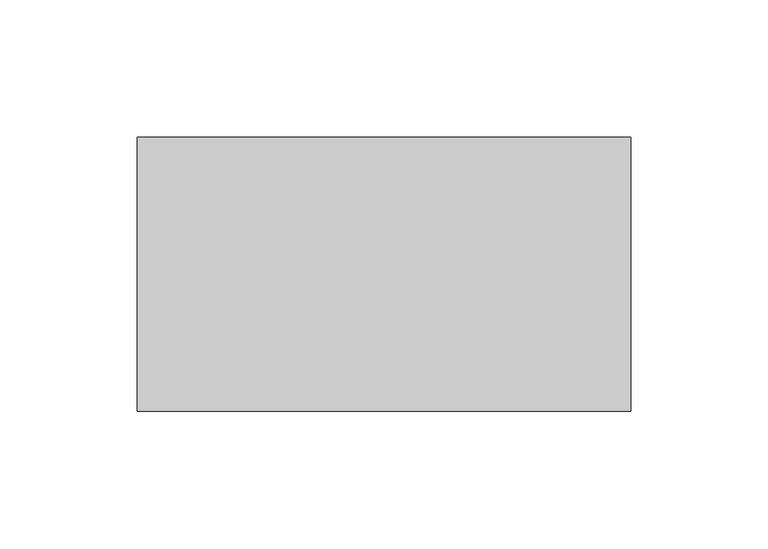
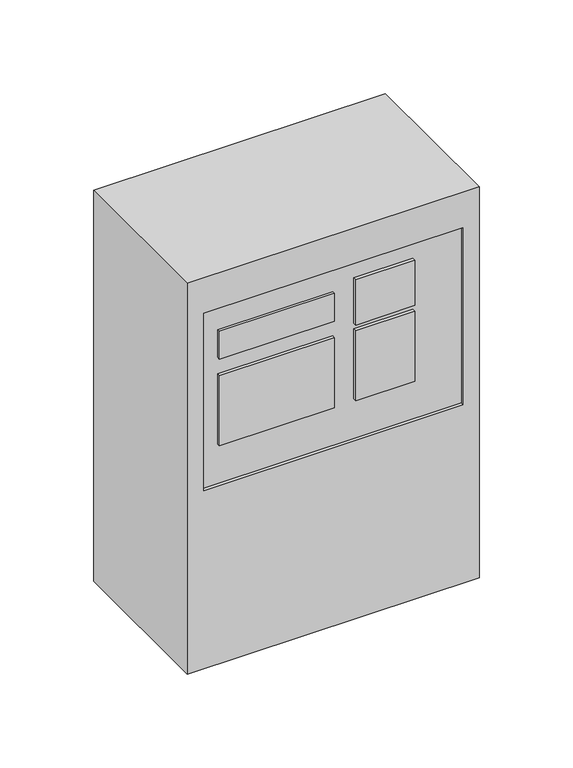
"""IFC4 building model written with IfcOpenShell, lengths in millimetres: electric distribution board geometry, EE_UN_controls muliflex_ACO : Mono Modbus pressure alarm."""

from ifc_helpers import new_model, si_unit, origin, place, context, project, spatial, faceted_brep, source, transform, mapped, element, save


def electric_distribution_board_6bfaa667(model_context):
    return source(origin(), model_context, "Body", "Brep", [
        faceted_brep([(90.0, -100.0, 255.0), (90.0, -100.0, 0.0), (90.0, 0.0, 0.0), (90.0, 0.0, 255.0), (-90.0, -100.0, 255.0), (-90.0, 0.0, 255.0), (-90.0, 0.0, 0.0), (-90.0, -100.0, 0.0), (80.0096394, -100.0, 116.2147724), (-79.9676092, -100.0, 116.2147724), (-79.9676092, -100.0, 231.7852276), (80.0096394, -100.0, 231.7852276), (-70.1604494, -100.0, 216.6402333), (-70.1604494, -100.0, 198.5992899), (0.7620556, -100.0, 198.5992899), (0.7620556, -100.0, 216.6402333), (-70.1604494, -100.0, 187.7957015), (-70.1604494, -100.0, 142.0017046), (0.7620556, -100.0, 142.0017046), (0.7620556, -100.0, 187.7957015), (50.3284005, -100.0, 191.3828296), (50.3284005, -100.0, 220.9553225), (13.849982, -100.0, 220.9553225), (13.849982, -100.0, 191.3828296), (50.3284005, -100.0, 142.0017046), (50.3284005, -100.0, 187.7957015), (13.849982, -100.0, 187.7957015), (13.849982, -100.0, 142.0017046), (-79.9676092, -98.0, 116.2147724), (80.0096394, -98.0, 116.2147724), (80.0096394, -98.0, 231.7852276), (-79.9676092, -98.0, 231.7852276), (-70.1604494, -98.0, 198.5992899), (-70.1604494, -98.0, 216.6402333), (0.7620556, -98.0, 216.6402333), (0.7620556, -98.0, 198.5992899), (-70.1604494, -98.0, 142.0017046), (-70.1604494, -98.0, 187.7957015), (0.7620556, -98.0, 187.7957015), (0.7620556, -98.0, 142.0017046), (50.3284005, -98.0, 220.9553225), (50.3284005, -98.0, 191.3828296), (13.849982, -98.0, 191.3828296), (13.849982, -98.0, 220.9553225), (50.3284005, -98.0, 187.7957015), (50.3284005, -98.0, 142.0017046), (13.849982, -98.0, 142.0017046), (13.849982, -98.0, 187.7957015)], [[[0, 1, 2, 3]], [[4, 5, 6, 7]], [[1, 0, 4, 7], [8, 9, 10, 11]], [[12, 13, 14, 15]], [[16, 17, 18, 19]], [[20, 21, 22, 23]], [[24, 25, 26, 27]], [[2, 1, 7, 6]], [[3, 2, 6, 5]], [[0, 3, 5, 4]], [[28, 29, 30, 31], [32, 33, 34, 35], [36, 37, 38, 39], [40, 41, 42, 43], [44, 45, 46, 47]], [[29, 28, 9, 8]], [[30, 29, 8, 11]], [[31, 30, 11, 10]], [[28, 31, 10, 9]], [[33, 32, 13, 12]], [[34, 33, 12, 15]], [[35, 34, 15, 14]], [[32, 35, 14, 13]], [[37, 36, 17, 16]], [[38, 37, 16, 19]], [[39, 38, 19, 18]], [[36, 39, 18, 17]], [[41, 40, 21, 20]], [[42, 41, 20, 23]], [[43, 42, 23, 22]], [[40, 43, 22, 21]], [[45, 44, 25, 24]], [[46, 45, 24, 27]], [[47, 46, 27, 26]], [[44, 47, 26, 25]]]),
    ])


if __name__ == "__main__":
    model = new_model("IFC4")
    model_context = context("Model", 3, world=origin())
    ifc_project = project(units=[si_unit("LENGTHUNIT", "METRE", prefix="MILLI")], contexts=[model_context])
    site = spatial("IfcSite", under=ifc_project)
    building = spatial("IfcBuilding", under=site)
    placement = place(None, origin())
    electric_distribution_board_shape = electric_distribution_board_6bfaa667(model_context)
    element("IfcElectricDistributionBoard", 1, ObjectType="EE_UN_controls muliflex_ACO : Mono Modbus pressure alarm", at=placement, inside=building, context=model_context, shape_type="MappedRepresentation", body=[
        mapped(electric_distribution_board_shape, transform((0.0, 0.0, 0.0), x_axis=(1.0, 0.0, 0.0), y_axis=(0.0, 1.0, 0.0), z_axis=(0.0, 0.0, 1.0))),
    ])
    save(model, "model.ifc")
